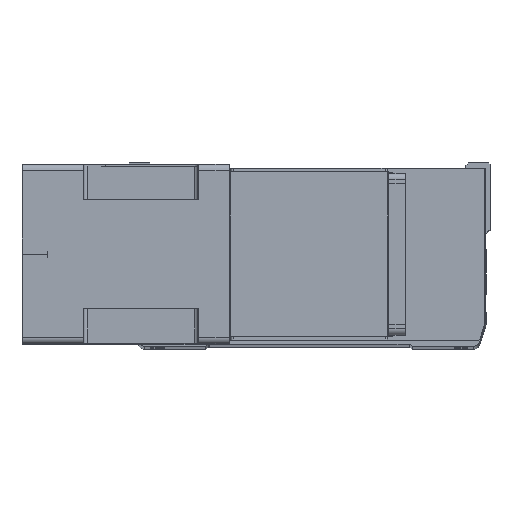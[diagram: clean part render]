
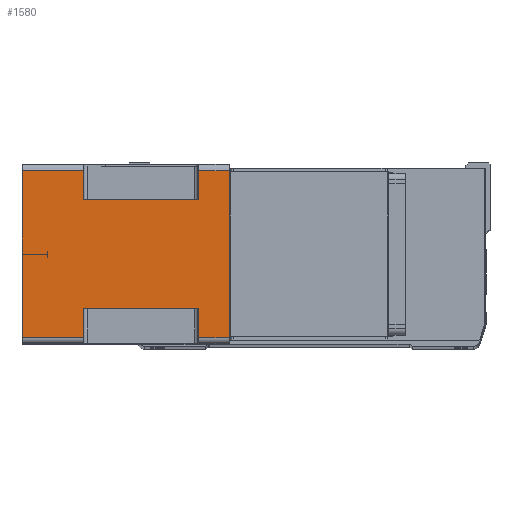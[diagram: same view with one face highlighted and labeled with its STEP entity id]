
A CAD part, top view. The second image highlights one B-rep face of the part: STEP entity #1580.
In plain terms, the highlighted planar face has unit normal (0, 0, 1) as drawn and (-1, 0, 0) by its records, which use the part's own axes.
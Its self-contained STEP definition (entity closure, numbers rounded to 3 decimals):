
#548 = DIRECTION ( 'NONE',  ( 0., 1., 0. ) ) ;
#580 = VERTEX_POINT ( 'NONE', #25812 ) ;
#683 = EDGE_CURVE ( 'NONE', #30210, #30639, #921, .T. ) ;
#713 = CARTESIAN_POINT ( 'NONE',  ( -71., -66., -164. ) ) ;
#921 = LINE ( 'NONE', #6489, #27187 ) ;
#1115 = CARTESIAN_POINT ( 'NONE',  ( -71., -66., -115.5 ) ) ;
#1417 = VERTEX_POINT ( 'NONE', #5436 ) ;
#1580 = ADVANCED_FACE ( 'NONE', ( #34558 ), #33856, .T. ) ;
#1608 = CARTESIAN_POINT ( 'NONE',  ( -71., 66., 0. ) ) ;
#1833 = EDGE_CURVE ( 'NONE', #580, #15517, #27024, .T. ) ;
#2068 = CARTESIAN_POINT ( 'NONE',  ( -71., 43., -164. ) ) ;
#3015 = VERTEX_POINT ( 'NONE', #713 ) ;
#3421 = ORIENTED_EDGE ( 'NONE', *, *, #5404, .T. ) ;
#3611 = CARTESIAN_POINT ( 'NONE',  ( -71., 43., -115.5 ) ) ;
#4210 = DIRECTION ( 'NONE',  ( 0., -1., 0. ) ) ;
#4618 = EDGE_CURVE ( 'NONE', #34421, #3015, #42994, .T. ) ;
#5404 = EDGE_CURVE ( 'NONE', #20041, #24451, #6939, .T. ) ;
#5436 = CARTESIAN_POINT ( 'NONE',  ( -71., 43., -24.5 ) ) ;
#5753 = CARTESIAN_POINT ( 'NONE',  ( -71., -66., 0. ) ) ;
#5955 = VECTOR ( 'NONE', #24928, 1000. ) ;
#6489 = CARTESIAN_POINT ( 'NONE',  ( -71., -43., -115.5 ) ) ;
#6663 = CARTESIAN_POINT ( 'NONE',  ( -71., -66., -164. ) ) ;
#6804 = DIRECTION ( 'NONE',  ( 0., 0., 1. ) ) ;
#6939 = LINE ( 'NONE', #1115, #24049 ) ;
#8611 = ORIENTED_EDGE ( 'NONE', *, *, #16631, .F. ) ;
#9003 = DIRECTION ( 'NONE',  ( 0., 0., 1. ) ) ;
#9443 = ORIENTED_EDGE ( 'NONE', *, *, #4618, .T. ) ;
#9709 = LINE ( 'NONE', #17465, #5955 ) ;
#9780 = CARTESIAN_POINT ( 'NONE',  ( -71., -66., -164. ) ) ;
#10070 = DIRECTION ( 'NONE',  ( 0., 0., 1. ) ) ;
#10368 = AXIS2_PLACEMENT_3D ( 'NONE', #9780, #26709, #16800 ) ;
#13132 = EDGE_CURVE ( 'NONE', #34421, #24451, #17835, .T. ) ;
#15127 = EDGE_CURVE ( 'NONE', #3015, #30210, #30438, .T. ) ;
#15517 = VERTEX_POINT ( 'NONE', #35701 ) ;
#16631 = EDGE_CURVE ( 'NONE', #26015, #15517, #18490, .T. ) ;
#16800 = DIRECTION ( 'NONE',  ( 0., -1., 0. ) ) ;
#16930 = CARTESIAN_POINT ( 'NONE',  ( -71., 66., -164. ) ) ;
#16990 = CARTESIAN_POINT ( 'NONE',  ( -71., -66., -115.5 ) ) ;
#17465 = CARTESIAN_POINT ( 'NONE',  ( -71., -43., -164. ) ) ;
#17835 = LINE ( 'NONE', #16930, #36566 ) ;
#18164 = ORIENTED_EDGE ( 'NONE', *, *, #31482, .F. ) ;
#18490 = LINE ( 'NONE', #5753, #30263 ) ;
#18811 = ORIENTED_EDGE ( 'NONE', *, *, #683, .T. ) ;
#19348 = ORIENTED_EDGE ( 'NONE', *, *, #13132, .F. ) ;
#20041 = VERTEX_POINT ( 'NONE', #3611 ) ;
#20780 = ORIENTED_EDGE ( 'NONE', *, *, #21130, .T. ) ;
#21130 = EDGE_CURVE ( 'NONE', #32998, #580, #31925, .T. ) ;
#21300 = VECTOR ( 'NONE', #34345, 1000. ) ;
#21696 = CARTESIAN_POINT ( 'NONE',  ( -71., 43., -24.5 ) ) ;
#22803 = VECTOR ( 'NONE', #44207, 1000. ) ;
#23412 = LINE ( 'NONE', #40953, #29309 ) ;
#24049 = VECTOR ( 'NONE', #548, 1000. ) ;
#24242 = VECTOR ( 'NONE', #9003, 1000. ) ;
#24451 = VERTEX_POINT ( 'NONE', #26665 ) ;
#24928 = DIRECTION ( 'NONE',  ( 0., 0., -1. ) ) ;
#25812 = CARTESIAN_POINT ( 'NONE',  ( -71., -66., -24.5 ) ) ;
#25966 = EDGE_CURVE ( 'NONE', #20041, #1417, #33362, .T. ) ;
#26015 = VERTEX_POINT ( 'NONE', #1608 ) ;
#26399 = CARTESIAN_POINT ( 'NONE',  ( -71., -43., -24.5 ) ) ;
#26665 = CARTESIAN_POINT ( 'NONE',  ( -71., 66., -115.5 ) ) ;
#26709 = DIRECTION ( 'NONE',  ( -1., 0., 0. ) ) ;
#27024 = LINE ( 'NONE', #28002, #30255 ) ;
#27187 = VECTOR ( 'NONE', #43660, 1000. ) ;
#28002 = CARTESIAN_POINT ( 'NONE',  ( -71., -66., -164. ) ) ;
#28141 = DIRECTION ( 'NONE',  ( 0., 0., 1. ) ) ;
#28480 = ORIENTED_EDGE ( 'NONE', *, *, #15127, .T. ) ;
#29309 = VECTOR ( 'NONE', #6804, 1000. ) ;
#29859 = CARTESIAN_POINT ( 'NONE',  ( -71., -43., -115.5 ) ) ;
#30041 = CARTESIAN_POINT ( 'NONE',  ( -71., 66., -24.5 ) ) ;
#30210 = VERTEX_POINT ( 'NONE', #16990 ) ;
#30255 = VECTOR ( 'NONE', #28141, 1000. ) ;
#30263 = VECTOR ( 'NONE', #36473, 1000. ) ;
#30281 = EDGE_LOOP ( 'NONE', ( #28480, #18811, #32678, #20780, #33704, #8611, #18164, #42050, #43234, #3421, #19348, #9443 ) ) ;
#30438 = LINE ( 'NONE', #6663, #21300 ) ;
#30639 = VERTEX_POINT ( 'NONE', #29859 ) ;
#31482 = EDGE_CURVE ( 'NONE', #34249, #26015, #23412, .T. ) ;
#31723 = EDGE_CURVE ( 'NONE', #34249, #1417, #41675, .T. ) ;
#31925 = LINE ( 'NONE', #43323, #22803 ) ;
#32445 = DIRECTION ( 'NONE',  ( 0., -1., 0. ) ) ;
#32524 = VECTOR ( 'NONE', #4210, 1000. ) ;
#32678 = ORIENTED_EDGE ( 'NONE', *, *, #39495, .F. ) ;
#32998 = VERTEX_POINT ( 'NONE', #26399 ) ;
#33362 = LINE ( 'NONE', #2068, #24242 ) ;
#33704 = ORIENTED_EDGE ( 'NONE', *, *, #1833, .T. ) ;
#33856 = PLANE ( 'NONE',  #10368 ) ;
#34249 = VERTEX_POINT ( 'NONE', #30041 ) ;
#34345 = DIRECTION ( 'NONE',  ( 0., 0., 1. ) ) ;
#34421 = VERTEX_POINT ( 'NONE', #42157 ) ;
#34558 = FACE_OUTER_BOUND ( 'NONE', #30281, .T. ) ;
#35701 = CARTESIAN_POINT ( 'NONE',  ( -71., -66., 0. ) ) ;
#36005 = VECTOR ( 'NONE', #32445, 1000. ) ;
#36473 = DIRECTION ( 'NONE',  ( 0., -1., 0. ) ) ;
#36566 = VECTOR ( 'NONE', #10070, 1000. ) ;
#39495 = EDGE_CURVE ( 'NONE', #32998, #30639, #9709, .T. ) ;
#40953 = CARTESIAN_POINT ( 'NONE',  ( -71., 66., -164. ) ) ;
#41675 = LINE ( 'NONE', #21696, #32524 ) ;
#42050 = ORIENTED_EDGE ( 'NONE', *, *, #31723, .T. ) ;
#42157 = CARTESIAN_POINT ( 'NONE',  ( -71., 66., -164. ) ) ;
#42355 = CARTESIAN_POINT ( 'NONE',  ( -71., -66., -164. ) ) ;
#42994 = LINE ( 'NONE', #42355, #36005 ) ;
#43234 = ORIENTED_EDGE ( 'NONE', *, *, #25966, .F. ) ;
#43323 = CARTESIAN_POINT ( 'NONE',  ( -71., -66., -24.5 ) ) ;
#43660 = DIRECTION ( 'NONE',  ( 0., 1., 0. ) ) ;
#44207 = DIRECTION ( 'NONE',  ( 0., -1., 0. ) ) ;
